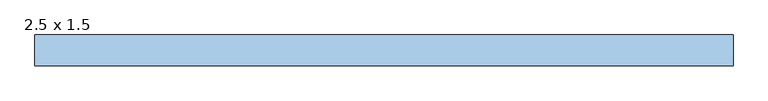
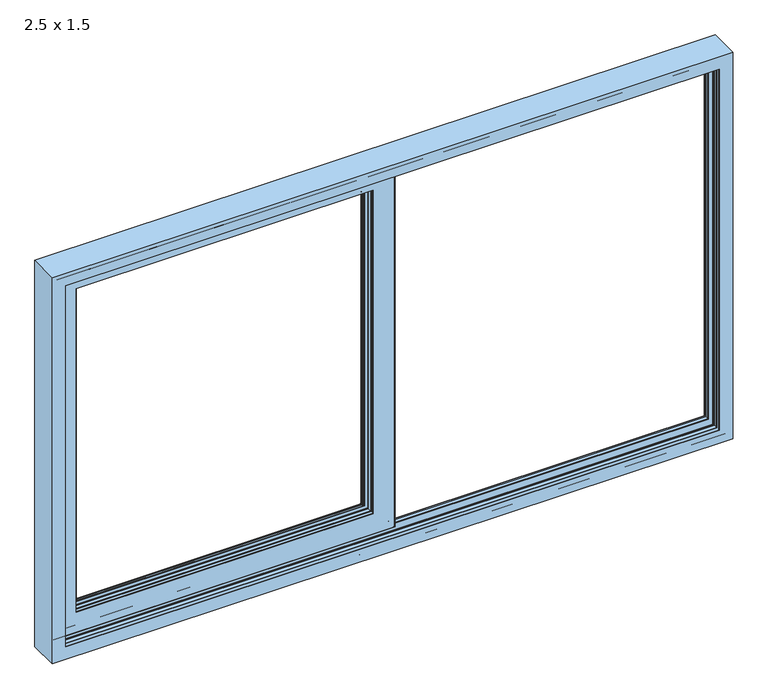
"""IFC4 building model written with IfcOpenShell, lengths in millimetres: window geometry, Windows_Opening-Slide_Strugal_S110P2_One-Leaf-Fixed-Leaf_INT (2) : 2.5 x 1.5."""

from ifc_helpers import new_model, si_unit, frame, origin, place, context, project, spatial, polyline, ellipse_curve, source, transform, mapped, element, save
from ifc_brep_helpers import plane_surface, cylinder_surface, revolved_surface, advanced_brep


def window_2_5_x_1_5_f0680f54(model_context):
    return source(origin(), model_context, "Body", "AdvancedBrep", [
        advanced_brep(
        [(45.5, -11.5, 1459.0), (41.5, -15.5, 1455.0), (41.5, -15.5, 45.0), (45.5, -11.5, 41.0), (-1205.0, -15.5, 1455.0), (-1205.0, -15.5, 45.0), (-36.0, -15.5, 122.5), (-1127.5, -15.5, 122.5), (-1127.5, -15.5, 1377.5), (-36.0, -15.5, 1377.5), (-1209.0, -11.5, 41.0), (45.5, -9.7086962, 1459.0), (45.5, -9.7086962, 41.0), (-1209.0, -9.7086962, 41.0), (44.4913038, -8.7, 1457.9913038), (44.4913038, -8.7, 42.0086962), (-1207.9913038, -8.7, 42.0086962), (-1207.9913038, -8.7, 1457.9913038), (34.9, -8.7, 1448.4), (-1198.4, -8.7, 1448.4), (-1198.4, -8.7, 51.6), (34.9, -8.7, 51.6), (34.9, 22.7, 1448.4), (34.9, 22.7, 51.6), (-1198.4, 22.7, 51.6), (44.5467393, 22.7, 1458.0467393), (-1208.0467393, 22.7, 1458.0467393), (-1208.0467393, 22.7, 41.9532607), (44.5467393, 22.7, 41.9532607), (-1198.4, 22.7, 1448.4), (45.5, 23.6532607, 1459.0), (45.5, 23.6532607, 41.0), (-1209.0, 23.6532607, 41.0), (45.5, 25.5, 1459.0), (45.5, 25.5, 41.0), (-1209.0, 25.5, 41.0), (41.5, 29.5, 1455.0), (41.5, 29.5, 45.0), (-1205.0, 29.5, 45.0), (-1205.0, 29.5, 1455.0), (-42.1435933, 29.5, 1371.3564067), (-1121.3564067, 29.5, 1371.3564067), (-1121.3564067, 29.5, 128.6435933), (-42.1435933, 29.5, 128.6435933), (-56.5170852, 25.3561312, 1356.9829148), (-56.5170852, 25.3561312, 143.0170852), (-1106.9829148, 25.3561312, 143.0170852), (-56.9999998, 24.4819735, 1356.5000002), (-56.9999998, 24.4819735, 143.4999998), (-1106.5000002, 24.4819735, 143.4999998), (-56.9999998, 22.0, 1356.5000002), (-56.9999998, 22.0, 143.4999998), (-1106.5000002, 22.0, 143.4999998), (-56.0, 21.0, 1357.5), (-56.0, 21.0, 142.5), (-1107.5, 21.0, 142.5), (-50.5, 21.0, 1363.0), (-1113.0, 21.0, 1363.0), (-1113.0, 21.0, 137.0), (-50.5, 21.0, 137.0), (-1107.5, 21.0, 1357.5), (-49.5, 22.0, 1364.0), (-49.5, 22.0, 136.0), (-1114.0, 22.0, 136.0), (-49.5, 26.9158408, 1364.0), (-49.5, 26.9158408, 136.0), (-1114.0, 26.9158408, 136.0), (-42.1435933, 28.0, 1371.3564067), (-42.1435933, 28.0, 128.6435933), (-1121.3564067, 28.0, 128.6435933), (-31.0, 28.0, 1382.5), (-1132.5, 28.0, 1382.5), (-1132.5, 28.0, 117.5), (-31.0, 28.0, 117.5), (-1121.3564067, 28.0, 1371.3564067), (-31.0, 18.0, 1382.5), (-31.0, 18.0, 117.5), (-1132.5, 18.0, 117.5), (-1132.5, 18.0, 1382.5), (-35.003386, 18.0, 1378.496614), (-1128.496614, 18.0, 1378.496614), (-1128.496614, 18.0, 121.503386), (-35.003386, 18.0, 121.503386), (-36.0, 17.003386, 1377.5), (-36.0, 17.003386, 122.5), (-1127.5, 17.003386, 122.5), (-36.0, 2.0, 1377.5), (-36.0, 2.0, 122.5), (-1127.5, 2.0, 122.5), (-34.0, 2.0, 1379.5), (-1129.5, 2.0, 1379.5), (-1129.5, 2.0, 120.5), (-34.0, 2.0, 120.5), (-1127.5, 2.0, 1377.5), (-34.0, 4.0, 1379.5), (-34.0, 4.0, 120.5), (-1129.5, 4.0, 120.5), (-31.0, 4.0, 1382.5), (-1132.5, 4.0, 1382.5), (-1132.5, 4.0, 117.5), (-31.0, 4.0, 117.5), (-1129.5, 4.0, 1379.5), (-31.0, -14.0, 1382.5), (-31.0, -14.0, 117.5), (-1132.5, -14.0, 117.5), (-1132.5, -14.0, 1382.5), (-34.0, -14.0, 1379.5), (-1129.5, -14.0, 1379.5), (-1129.5, -14.0, 120.5), (-34.0, -14.0, 120.5), (-34.0, -12.0, 1379.5), (-34.0, -12.0, 120.5), (-1129.5, -12.0, 120.5), (-36.0, -12.5091854, 1377.5), (-36.0, -12.5091854, 122.5), (-1127.5, -12.5091854, 122.5), (-1209.0, -11.5, 1459.0), (-1209.0, -9.7086962, 1459.0), (-1209.0, 23.6532607, 1459.0), (-1209.0, 25.5, 1459.0), (-1106.9829148, 25.3561312, 1356.9829148), (-1106.5000002, 24.4819735, 1356.5000002), (-1106.5000002, 22.0, 1356.5000002), (-1114.0, 22.0, 1364.0), (-1114.0, 26.9158408, 1364.0), (-1127.5, 17.003386, 1377.5), (-1129.5, -12.0, 1379.5), (-1127.5, -12.5091854, 1377.5)],
        [
            (0, 1, ellipse_curve(frame((41.5, -11.5, 1455.0), z_axis=(0.7071067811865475, 0.0, -0.7071067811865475), x_axis=(0.7071067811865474, 0.0, 0.7071067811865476)), 5.6568542, 4.0)),
            (1, 2),
            (2, 3, ellipse_curve(frame((41.5, -11.5, 45.0), z_axis=(0.7071067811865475, 0.0, 0.7071067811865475), x_axis=(-0.7071067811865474, 0.0, 0.7071067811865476)), 5.6568542, 4.0)),
            (3, 0),
            (1, 4),
            (4, 5),
            (5, 2),
            (6, 7),
            (7, 8),
            (8, 9),
            (9, 6),
            (5, 10, ellipse_curve(frame((-1205.0, -11.5, 45.0), z_axis=(0.7071067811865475, 0.0, -0.7071067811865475), x_axis=(0.7071067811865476, 0.0, 0.7071067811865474)), 5.6568542, 4.0)),
            (10, 3),
            (11, 0),
            (3, 12),
            (12, 11),
            (10, 13),
            (13, 12),
            (14, 11, ellipse_curve(frame((44.4913038, -9.7086962, 1457.9913038), z_axis=(0.7071067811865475, 0.0, -0.7071067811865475), x_axis=(0.7071067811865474, 0.0, 0.7071067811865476)), 1.4265118, 1.0086962)),
            (12, 15, ellipse_curve(frame((44.4913038, -9.7086962, 42.0086962), z_axis=(0.7071067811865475, 0.0, 0.7071067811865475), x_axis=(-0.7071067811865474, 0.0, 0.7071067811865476)), 1.4265118, 1.0086962)),
            (15, 14),
            (13, 16, ellipse_curve(frame((-1207.9913038, -9.7086962, 42.0086962), z_axis=(0.7071067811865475, 0.0, -0.7071067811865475), x_axis=(0.7071067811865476, 0.0, 0.7071067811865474)), 1.4265118, 1.0086962)),
            (16, 15),
            (16, 17),
            (17, 14),
            (18, 19),
            (19, 20),
            (20, 21),
            (21, 18),
            (22, 18),
            (21, 23),
            (23, 22),
            (20, 24),
            (24, 23),
            (25, 26),
            (26, 27),
            (27, 28),
            (28, 25),
            (24, 29),
            (29, 22),
            (30, 25, ellipse_curve(frame((44.5467393, 23.6532607, 1458.0467393), z_axis=(0.7071067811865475, 0.0, -0.7071067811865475), x_axis=(0.7071067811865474, 0.0, 0.7071067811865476)), 1.3481142, 0.9532607)),
            (28, 31, ellipse_curve(frame((44.5467393, 23.6532607, 41.9532607), z_axis=(0.7071067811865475, 0.0, 0.7071067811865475), x_axis=(-0.7071067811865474, 0.0, 0.7071067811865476)), 1.3481142, 0.9532607)),
            (31, 30),
            (27, 32, ellipse_curve(frame((-1208.0467393, 23.6532607, 41.9532607), z_axis=(0.7071067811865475, 0.0, -0.7071067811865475), x_axis=(0.7071067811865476, 0.0, 0.7071067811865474)), 1.3481142, 0.9532607)),
            (32, 31),
            (33, 30),
            (31, 34),
            (34, 33),
            (32, 35),
            (35, 34),
            (36, 33, ellipse_curve(frame((41.5, 25.5, 1455.0), z_axis=(0.7071067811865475, 0.0, -0.7071067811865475), x_axis=(0.7071067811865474, 0.0, 0.7071067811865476)), 5.6568542, 4.0)),
            (34, 37, ellipse_curve(frame((41.5, 25.5, 45.0), z_axis=(0.7071067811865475, 0.0, 0.7071067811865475), x_axis=(-0.7071067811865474, 0.0, 0.7071067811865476)), 5.6568542, 4.0)),
            (37, 36),
            (35, 38, ellipse_curve(frame((-1205.0, 25.5, 45.0), z_axis=(0.7071067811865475, 0.0, -0.7071067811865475), x_axis=(0.7071067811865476, 0.0, 0.7071067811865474)), 5.6568542, 4.0)),
            (38, 37),
            (38, 39),
            (39, 36),
            (40, 41),
            (41, 42),
            (42, 43),
            (43, 40),
            (44, 40, ellipse_curve(frame((-42.1435933, 2.5, 1371.3564067), z_axis=(0.7071067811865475, 0.0, -0.7071067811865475), x_axis=(0.7071067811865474, 0.0, 0.7071067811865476)), 38.1837662, 27.0)),
            (43, 45, ellipse_curve(frame((-42.1435933, 2.5, 128.6435933), z_axis=(0.7071067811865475, 0.0, 0.7071067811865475), x_axis=(-0.7071067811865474, 0.0, 0.7071067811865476)), 38.1837662, 27.0)),
            (45, 44),
            (42, 46, ellipse_curve(frame((-1121.3564067, 2.5, 128.6435933), z_axis=(0.7071067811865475, 0.0, -0.7071067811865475), x_axis=(0.7071067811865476, 0.0, 0.7071067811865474)), 38.1837662, 27.0)),
            (46, 45),
            (47, 44, ellipse_curve(frame((-55.9673553, 24.4819735, 1357.5326447), z_axis=(0.7071067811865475, 0.0, -0.7071067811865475), x_axis=(0.7071067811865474, 0.0, 0.7071067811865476)), 1.4603799, 1.0326445)),
            (45, 48, ellipse_curve(frame((-55.9673553, 24.4819735, 142.4673553), z_axis=(0.7071067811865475, 0.0, 0.7071067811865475), x_axis=(-0.7071067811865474, 0.0, 0.7071067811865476)), 1.4603799, 1.0326445)),
            (48, 47),
            (46, 49, ellipse_curve(frame((-1107.5326447, 24.4819735, 142.4673553), z_axis=(0.7071067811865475, 0.0, -0.7071067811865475), x_axis=(0.7071067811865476, 0.0, 0.7071067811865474)), 1.4603799, 1.0326445)),
            (49, 48),
            (50, 47),
            (48, 51),
            (51, 50),
            (49, 52),
            (52, 51),
            (53, 50, ellipse_curve(frame((-56.0, 22.0, 1357.5), z_axis=(0.7071067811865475, 0.0, -0.7071067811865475), x_axis=(0.7071067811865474, 0.0, 0.7071067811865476)), 1.4142136, 1.0)),
            (51, 54, ellipse_curve(frame((-56.0, 22.0, 142.5), z_axis=(0.7071067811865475, 0.0, 0.7071067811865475), x_axis=(-0.7071067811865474, 0.0, 0.7071067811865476)), 1.4142136, 1.0)),
            (54, 53),
            (52, 55, ellipse_curve(frame((-1107.5, 22.0, 142.5), z_axis=(0.7071067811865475, 0.0, -0.7071067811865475), x_axis=(0.7071067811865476, 0.0, 0.7071067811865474)), 1.4142136, 1.0)),
            (55, 54),
            (56, 57),
            (57, 58),
            (58, 59),
            (59, 56),
            (55, 60),
            (60, 53),
            (61, 56, ellipse_curve(frame((-50.5, 22.0, 1363.0), z_axis=(0.7071067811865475, 0.0, -0.7071067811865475), x_axis=(0.7071067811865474, 0.0, 0.7071067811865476)), 1.4142136, 1.0)),
            (59, 62, ellipse_curve(frame((-50.5, 22.0, 137.0), z_axis=(0.7071067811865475, 0.0, 0.7071067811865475), x_axis=(-0.7071067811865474, 0.0, 0.7071067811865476)), 1.4142136, 1.0)),
            (62, 61),
            (58, 63, ellipse_curve(frame((-1113.0, 22.0, 137.0), z_axis=(0.7071067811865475, 0.0, -0.7071067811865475), x_axis=(0.7071067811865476, 0.0, 0.7071067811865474)), 1.4142136, 1.0)),
            (63, 62),
            (64, 61),
            (62, 65),
            (65, 64),
            (63, 66),
            (66, 65),
            (67, 64, ellipse_curve(frame((-42.1435933, 2.5, 1371.3564067), z_axis=(-0.7071067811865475, 0.0, 0.7071067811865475), x_axis=(-0.7071067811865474, 0.0, -0.7071067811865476)), 36.0624458, 25.5)),
            (65, 68, ellipse_curve(frame((-42.1435933, 2.5, 128.6435933), z_axis=(-0.7071067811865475, 0.0, -0.7071067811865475), x_axis=(0.7071067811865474, 0.0, -0.7071067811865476)), 36.0624458, 25.5)),
            (68, 67),
            (66, 69, ellipse_curve(frame((-1121.3564067, 2.5, 128.6435933), z_axis=(-0.7071067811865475, 0.0, 0.7071067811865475), x_axis=(-0.7071067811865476, 0.0, -0.7071067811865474)), 36.0624458, 25.5)),
            (69, 68),
            (70, 71),
            (71, 72),
            (72, 73),
            (73, 70),
            (69, 74),
            (74, 67),
            (75, 70),
            (73, 76),
            (76, 75),
            (72, 77),
            (77, 76),
            (77, 78),
            (78, 75),
            (79, 80),
            (80, 81),
            (81, 82),
            (82, 79),
            (83, 79, ellipse_curve(frame((-35.003386, 17.003386, 1378.496614), z_axis=(0.7071067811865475, 0.0, -0.7071067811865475), x_axis=(0.7071067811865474, 0.0, 0.7071067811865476)), 1.4094251, 0.996614)),
            (82, 84, ellipse_curve(frame((-35.003386, 17.003386, 121.503386), z_axis=(0.7071067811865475, 0.0, 0.7071067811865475), x_axis=(-0.7071067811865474, 0.0, 0.7071067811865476)), 1.4094251, 0.996614)),
            (84, 83),
            (81, 85, ellipse_curve(frame((-1128.496614, 17.003386, 121.503386), z_axis=(0.7071067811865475, 0.0, -0.7071067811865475), x_axis=(0.7071067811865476, 0.0, 0.7071067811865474)), 1.4094251, 0.996614)),
            (85, 84),
            (86, 83),
            (84, 87),
            (87, 86),
            (85, 88),
            (88, 87),
            (89, 90),
            (90, 91),
            (91, 92),
            (92, 89),
            (88, 93),
            (93, 86),
            (94, 89),
            (92, 95),
            (95, 94),
            (91, 96),
            (96, 95),
            (97, 98),
            (98, 99),
            (99, 100),
            (100, 97),
            (96, 101),
            (101, 94),
            (102, 97),
            (100, 103),
            (103, 102),
            (99, 104),
            (104, 103),
            (104, 105),
            (105, 102),
            (106, 107),
            (107, 108),
            (108, 109),
            (109, 106),
            (110, 106),
            (109, 111),
            (111, 110),
            (108, 112),
            (112, 111),
            (113, 110),
            (111, 114),
            (114, 113),
            (112, 115),
            (115, 114),
            (9, 113),
            (114, 6),
            (115, 7),
            (4, 116, ellipse_curve(frame((-1205.0, -11.5, 1455.0), z_axis=(-0.7071067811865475, 0.0, -0.7071067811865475), x_axis=(0.7071067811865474, 0.0, -0.7071067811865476)), 5.6568542, 4.0)),
            (116, 10),
            (116, 117),
            (117, 13),
            (117, 17, ellipse_curve(frame((-1207.9913038, -9.7086962, 1457.9913038), z_axis=(-0.7071067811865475, 0.0, -0.7071067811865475), x_axis=(0.7071067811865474, 0.0, -0.7071067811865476)), 1.4265118, 1.0086962)),
            (19, 29),
            (26, 118, ellipse_curve(frame((-1208.0467393, 23.6532607, 1458.0467393), z_axis=(-0.7071067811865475, 0.0, -0.7071067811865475), x_axis=(0.7071067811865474, 0.0, -0.7071067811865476)), 1.3481142, 0.9532607)),
            (118, 32),
            (118, 119),
            (119, 35),
            (119, 39, ellipse_curve(frame((-1205.0, 25.5, 1455.0), z_axis=(-0.7071067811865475, 0.0, -0.7071067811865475), x_axis=(0.7071067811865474, 0.0, -0.7071067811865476)), 5.6568542, 4.0)),
            (41, 120, ellipse_curve(frame((-1121.3564067, 2.5, 1371.3564067), z_axis=(-0.7071067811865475, 0.0, -0.7071067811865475), x_axis=(0.7071067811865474, 0.0, -0.7071067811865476)), 38.1837662, 27.0)),
            (120, 46),
            (120, 121, ellipse_curve(frame((-1107.5326447, 24.4819735, 1357.5326447), z_axis=(-0.7071067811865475, 0.0, -0.7071067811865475), x_axis=(0.7071067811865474, 0.0, -0.7071067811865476)), 1.4603799, 1.0326445)),
            (121, 49),
            (121, 122),
            (122, 52),
            (122, 60, ellipse_curve(frame((-1107.5, 22.0, 1357.5), z_axis=(-0.7071067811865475, 0.0, -0.7071067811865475), x_axis=(0.7071067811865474, 0.0, -0.7071067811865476)), 1.4142136, 1.0)),
            (57, 123, ellipse_curve(frame((-1113.0, 22.0, 1363.0), z_axis=(-0.7071067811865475, 0.0, -0.7071067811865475), x_axis=(0.7071067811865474, 0.0, -0.7071067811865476)), 1.4142136, 1.0)),
            (123, 63),
            (123, 124),
            (124, 66),
            (124, 74, ellipse_curve(frame((-1121.3564067, 2.5, 1371.3564067), z_axis=(0.7071067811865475, 0.0, 0.7071067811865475), x_axis=(-0.7071067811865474, 0.0, 0.7071067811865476)), 36.0624458, 25.5)),
            (71, 78),
            (80, 125, ellipse_curve(frame((-1128.496614, 17.003386, 1378.496614), z_axis=(-0.7071067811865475, 0.0, -0.7071067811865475), x_axis=(0.7071067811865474, 0.0, -0.7071067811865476)), 1.4094251, 0.996614)),
            (125, 85),
            (125, 93),
            (90, 101),
            (98, 105),
            (107, 126),
            (126, 112),
            (126, 127),
            (127, 115),
            (127, 8),
            (0, 116),
            (11, 117),
            (30, 118),
            (33, 119),
            (44, 120),
            (47, 121),
            (50, 122),
            (61, 123),
            (64, 124),
            (83, 125),
            (110, 126),
            (113, 127),
        ],
        [
            cylinder_surface(frame((41.5, -11.5, 1459.0), z_axis=(0.0, 0.0, 1.0), x_axis=(-1.0, 0.0, 0.0)), 4.0),
            plane_surface(frame((-1127.5, -15.5, 1377.5), z_axis=(0.0, -1.0, 0.0), x_axis=(1.0, 0.0, 0.0))),
            cylinder_surface(frame((45.5, -11.5, 45.0), z_axis=(1.0, 0.0, 0.0), x_axis=(0.0, 0.0, 1.0)), 4.0),
            plane_surface(frame((45.5, -11.5, 1459.0), z_axis=(1.0, 0.0, 0.0), x_axis=(0.0, 0.0, -1.0))),
            plane_surface(frame((45.5, -11.5, 41.0), z_axis=(0.0, 0.0, -1.0), x_axis=(-1.0, 0.0, 0.0))),
            cylinder_surface(frame((44.4913038, -9.7086962, 1459.0), z_axis=(0.0, 0.0, 1.0), x_axis=(-1.0, 0.0, 0.0)), 1.0086962),
            cylinder_surface(frame((45.5, -9.7086962, 42.0086962), z_axis=(1.0, 0.0, 0.0), x_axis=(0.0, 0.0, 1.0)), 1.0086962),
            plane_surface(frame((-1207.9913038, -8.7, 1457.9913038), z_axis=(0.0, 1.0, 0.0), x_axis=(1.0, 0.0, 0.0))),
            plane_surface(frame((34.9, -8.7, 1448.4), z_axis=(1.0, 0.0, 0.0), x_axis=(0.0, 0.0, -1.0))),
            plane_surface(frame((34.9, -8.7, 51.6), z_axis=(0.0, 0.0, -1.0), x_axis=(-1.0, 0.0, 0.0))),
            plane_surface(frame((-1198.4, 22.7, 1448.4), z_axis=(0.0, -1.0, 0.0), x_axis=(1.0, 0.0, 0.0))),
            cylinder_surface(frame((44.5467393, 23.6532607, 1459.0), z_axis=(0.0, 0.0, 1.0), x_axis=(-1.0, 0.0, 0.0)), 0.9532607),
            cylinder_surface(frame((45.5, 23.6532607, 41.9532607), z_axis=(1.0, 0.0, 0.0), x_axis=(0.0, 0.0, 1.0)), 0.9532607),
            plane_surface(frame((45.5, 23.6532607, 1459.0), z_axis=(1.0, 0.0, 0.0), x_axis=(0.0, 0.0, -1.0))),
            plane_surface(frame((45.5, 23.6532607, 41.0), z_axis=(0.0, 0.0, -1.0), x_axis=(-1.0, 0.0, 0.0))),
            cylinder_surface(frame((41.5, 25.5, 1459.0), z_axis=(0.0, 0.0, 1.0), x_axis=(-1.0, 0.0, 0.0)), 4.0),
            cylinder_surface(frame((45.5, 25.5, 45.0), z_axis=(1.0, 0.0, 0.0), x_axis=(0.0, 0.0, 1.0)), 4.0),
            plane_surface(frame((-1205.0, 29.5, 1455.0), z_axis=(0.0, 1.0, 0.0), x_axis=(1.0, 0.0, 0.0))),
            cylinder_surface(frame((-42.1435933, 2.5, 1459.0), z_axis=(0.0, 0.0, 1.0), x_axis=(-1.0, 0.0, 0.0)), 27.0),
            cylinder_surface(frame((45.5, 2.5, 128.6435933), z_axis=(1.0, 0.0, 0.0), x_axis=(0.0, 0.0, 1.0)), 27.0),
            cylinder_surface(frame((-55.9673553, 24.4819735, 1459.0), z_axis=(0.0, 0.0, 1.0), x_axis=(-1.0, 0.0, 0.0)), 1.0326445),
            cylinder_surface(frame((45.5, 24.4819735, 142.4673553), z_axis=(1.0, 0.0, 0.0), x_axis=(0.0, 0.0, 1.0)), 1.0326445),
            plane_surface(frame((-56.9999998, 24.4819735, 1356.5000002), z_axis=(-1.0, 0.0, 0.0), x_axis=(0.0, 0.0, -1.0))),
            plane_surface(frame((-56.9999998, 24.4819735, 143.4999998), z_axis=(0.0, 0.0, 1.0), x_axis=(-1.0, 0.0, 0.0))),
            cylinder_surface(frame((-56.0, 22.0, 1459.0), z_axis=(0.0, 0.0, 1.0), x_axis=(-1.0, 0.0, 0.0)), 1.0),
            cylinder_surface(frame((45.5, 22.0, 142.5), z_axis=(1.0, 0.0, 0.0), x_axis=(0.0, 0.0, 1.0)), 1.0),
            plane_surface(frame((-1107.5, 21.0, 1357.5), z_axis=(0.0, -1.0, 0.0), x_axis=(1.0, 0.0, 0.0))),
            cylinder_surface(frame((-50.5, 22.0, 1459.0), z_axis=(0.0, 0.0, 1.0), x_axis=(-1.0, 0.0, 0.0)), 1.0),
            cylinder_surface(frame((45.5, 22.0, 137.0), z_axis=(1.0, 0.0, 0.0), x_axis=(0.0, 0.0, 1.0)), 1.0),
            plane_surface(frame((-49.5, 22.0, 1364.0), z_axis=(1.0, 0.0, 0.0), x_axis=(0.0, 0.0, -1.0))),
            plane_surface(frame((-49.5, 22.0, 136.0), z_axis=(0.0, 0.0, -1.0), x_axis=(-1.0, 0.0, 0.0))),
            revolved_surface(polyline([(-67.64359329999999, 2.5, 103.14359332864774), (-67.64359329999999, 2.5, 1396.8564066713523)]), (-42.1435933, 2.5, 1459.0), (0.0, 0.0, -1.0)),
            revolved_surface(polyline([(-1146.8564066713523, 2.5, 154.1435933), (-16.64359332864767, 2.5, 154.1435933)]), (45.5, 2.5, 128.6435933), (-1.0, 0.0, 0.0)),
            plane_surface(frame((-1121.3564067, 28.0, 1371.3564067), z_axis=(0.0, -1.0, 0.0), x_axis=(1.0, 0.0, 0.0))),
            plane_surface(frame((-31.0, 28.0, 1382.5), z_axis=(-1.0, 0.0, 0.0), x_axis=(0.0, 0.0, -1.0))),
            plane_surface(frame((-31.0, 28.0, 117.5), z_axis=(0.0, 0.0, 1.0), x_axis=(-1.0, 0.0, 0.0))),
            plane_surface(frame((-1132.5, 18.0, 1382.5), z_axis=(0.0, 1.0, 0.0), x_axis=(1.0, 0.0, 0.0))),
            cylinder_surface(frame((-35.003386, 17.003386, 1459.0), z_axis=(0.0, 0.0, 1.0), x_axis=(-1.0, 0.0, 0.0)), 0.996614),
            cylinder_surface(frame((45.5, 17.003386, 121.503386), z_axis=(1.0, 0.0, 0.0), x_axis=(0.0, 0.0, 1.0)), 0.996614),
            plane_surface(frame((-36.0, 17.003386, 1377.5), z_axis=(-1.0, 0.0, 0.0), x_axis=(0.0, 0.0, -1.0))),
            plane_surface(frame((-36.0, 17.003386, 122.5), z_axis=(0.0, 0.0, 1.0), x_axis=(-1.0, 0.0, 0.0))),
            plane_surface(frame((-1127.5, 2.0, 1377.5), z_axis=(0.0, -1.0, 0.0), x_axis=(1.0, 0.0, 0.0))),
            plane_surface(frame((-34.0, 2.0, 1379.5), z_axis=(1.0, 0.0, 0.0), x_axis=(0.0, 0.0, -1.0))),
            plane_surface(frame((-34.0, 2.0, 120.5), z_axis=(0.0, 0.0, -1.0), x_axis=(-1.0, 0.0, 0.0))),
            plane_surface(frame((-1129.5, 4.0, 1379.5), z_axis=(0.0, -1.0, 0.0), x_axis=(1.0, 0.0, 0.0))),
            plane_surface(frame((-31.0, 4.0, 1382.5), z_axis=(-1.0, 0.0, 0.0), x_axis=(0.0, 0.0, -1.0))),
            plane_surface(frame((-31.0, 4.0, 117.5), z_axis=(0.0, 0.0, 1.0), x_axis=(-1.0, 0.0, 0.0))),
            plane_surface(frame((-1132.5, -14.0, 1382.5), z_axis=(0.0, 1.0, 0.0), x_axis=(1.0, 0.0, 0.0))),
            plane_surface(frame((-34.0, -14.0, 1379.5), z_axis=(1.0, 0.0, 0.0), x_axis=(0.0, 0.0, -1.0))),
            plane_surface(frame((-34.0, -14.0, 120.5), z_axis=(0.0, 0.0, -1.0), x_axis=(-1.0, 0.0, 0.0))),
            plane_surface(frame((-34.0, -12.0, 1379.5), z_axis=(-0.24672227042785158, 0.9690862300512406, 0.0), x_axis=(0.0, 0.0, -1.0))),
            plane_surface(frame((-34.0, -12.0, 120.5), z_axis=(0.0, 0.9690862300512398, 0.24672227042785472), x_axis=(-1.0, 0.0, 0.0))),
            plane_surface(frame((-36.0, -12.5091854, 1377.5), z_axis=(-1.0, 0.0, 0.0), x_axis=(0.0, 0.0, -1.0))),
            plane_surface(frame((-36.0, -12.5091854, 122.5), z_axis=(0.0, 0.0, 1.0), x_axis=(-1.0, 0.0, 0.0))),
            cylinder_surface(frame((-1205.0, -11.5, 41.0), z_axis=(0.0, 0.0, -1.0), x_axis=(1.0, 0.0, 0.0)), 4.0),
            plane_surface(frame((-1209.0, -11.5, 41.0), z_axis=(-1.0, 0.0, 0.0), x_axis=(0.0, 0.0, 1.0))),
            cylinder_surface(frame((-1207.9913038, -9.7086962, 41.0), z_axis=(0.0, 0.0, -1.0), x_axis=(1.0, 0.0, 0.0)), 1.0086962),
            plane_surface(frame((-1198.4, -8.7, 51.6), z_axis=(-1.0, 0.0, 0.0), x_axis=(0.0, 0.0, 1.0))),
            cylinder_surface(frame((-1208.0467393, 23.6532607, 41.0), z_axis=(0.0, 0.0, -1.0), x_axis=(1.0, 0.0, 0.0)), 0.9532607),
            plane_surface(frame((-1209.0, 23.6532607, 41.0), z_axis=(-1.0, 0.0, 0.0), x_axis=(0.0, 0.0, 1.0))),
            cylinder_surface(frame((-1205.0, 25.5, 41.0), z_axis=(0.0, 0.0, -1.0), x_axis=(1.0, 0.0, 0.0)), 4.0),
            cylinder_surface(frame((-1121.3564067, 2.5, 41.0), z_axis=(0.0, 0.0, -1.0), x_axis=(1.0, 0.0, 0.0)), 27.0),
            cylinder_surface(frame((-1107.5326447, 24.4819735, 41.0), z_axis=(0.0, 0.0, -1.0), x_axis=(1.0, 0.0, 0.0)), 1.0326445),
            plane_surface(frame((-1106.5000002, 24.4819735, 143.4999998), z_axis=(1.0, 0.0, 0.0), x_axis=(0.0, 0.0, 1.0))),
            cylinder_surface(frame((-1107.5, 22.0, 41.0), z_axis=(0.0, 0.0, -1.0), x_axis=(1.0, 0.0, 0.0)), 1.0),
            cylinder_surface(frame((-1113.0, 22.0, 41.0), z_axis=(0.0, 0.0, -1.0), x_axis=(1.0, 0.0, 0.0)), 1.0),
            plane_surface(frame((-1114.0, 22.0, 136.0), z_axis=(-1.0, 0.0, 0.0), x_axis=(0.0, 0.0, 1.0))),
            revolved_surface(polyline([(-1095.8564067, 2.5, 1396.8564066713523), (-1095.8564067, 2.5, 103.14359332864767)]), (-1121.3564067, 2.5, 41.0), (0.0, 0.0, 1.0)),
            plane_surface(frame((-1132.5, 28.0, 117.5), z_axis=(1.0, 0.0, 0.0), x_axis=(0.0, 0.0, 1.0))),
            cylinder_surface(frame((-1128.496614, 17.003386, 41.0), z_axis=(0.0, 0.0, -1.0), x_axis=(1.0, 0.0, 0.0)), 0.996614),
            plane_surface(frame((-1127.5, 17.003386, 122.5), z_axis=(1.0, 0.0, 0.0), x_axis=(0.0, 0.0, 1.0))),
            plane_surface(frame((-1129.5, 2.0, 120.5), z_axis=(-1.0, 0.0, 0.0), x_axis=(0.0, 0.0, 1.0))),
            plane_surface(frame((-1132.5, 4.0, 117.5), z_axis=(1.0, 0.0, 0.0), x_axis=(0.0, 0.0, 1.0))),
            plane_surface(frame((-1129.5, -14.0, 120.5), z_axis=(-1.0, 0.0, 0.0), x_axis=(0.0, 0.0, 1.0))),
            plane_surface(frame((-1129.5, -12.0, 120.5), z_axis=(0.24672227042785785, 0.9690862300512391, 0.0), x_axis=(0.0, 0.0, 1.0))),
            plane_surface(frame((-1127.5, -12.5091854, 122.5), z_axis=(1.0, 0.0, 0.0), x_axis=(0.0, 0.0, 1.0))),
            cylinder_surface(frame((-1209.0, -11.5, 1455.0), z_axis=(-1.0, 0.0, 0.0), x_axis=(0.0, 0.0, -1.0)), 4.0),
            plane_surface(frame((-1209.0, -11.5, 1459.0), z_axis=(0.0, 0.0, 1.0), x_axis=(1.0, 0.0, 0.0))),
            cylinder_surface(frame((-1209.0, -9.7086962, 1457.9913038), z_axis=(-1.0, 0.0, 0.0), x_axis=(0.0, 0.0, -1.0)), 1.0086962),
            plane_surface(frame((-1198.4, -8.7, 1448.4), z_axis=(0.0, 0.0, 1.0), x_axis=(1.0, 0.0, 0.0))),
            cylinder_surface(frame((-1209.0, 23.6532607, 1458.0467393), z_axis=(-1.0, 0.0, 0.0), x_axis=(0.0, 0.0, -1.0)), 0.9532607),
            plane_surface(frame((-1209.0, 23.6532607, 1459.0), z_axis=(0.0, 0.0, 1.0), x_axis=(1.0, 0.0, 0.0))),
            cylinder_surface(frame((-1209.0, 25.5, 1455.0), z_axis=(-1.0, 0.0, 0.0), x_axis=(0.0, 0.0, -1.0)), 4.0),
            cylinder_surface(frame((-1209.0, 2.5, 1371.3564067), z_axis=(-1.0, 0.0, 0.0), x_axis=(0.0, 0.0, -1.0)), 27.0),
            cylinder_surface(frame((-1209.0, 24.4819735, 1357.5326447), z_axis=(-1.0, 0.0, 0.0), x_axis=(0.0, 0.0, -1.0)), 1.0326445),
            plane_surface(frame((-1106.5000002, 24.4819735, 1356.5000002), z_axis=(0.0, 0.0, -1.0), x_axis=(1.0, 0.0, 0.0))),
            cylinder_surface(frame((-1209.0, 22.0, 1357.5), z_axis=(-1.0, 0.0, 0.0), x_axis=(0.0, 0.0, -1.0)), 1.0),
            cylinder_surface(frame((-1209.0, 22.0, 1363.0), z_axis=(-1.0, 0.0, 0.0), x_axis=(0.0, 0.0, -1.0)), 1.0),
            plane_surface(frame((-1114.0, 22.0, 1364.0), z_axis=(0.0, 0.0, 1.0), x_axis=(1.0, 0.0, 0.0))),
            revolved_surface(polyline([(-16.64359332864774, 2.5, 1345.8564067), (-1146.8564066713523, 2.5, 1345.8564067)]), (-1209.0, 2.5, 1371.3564067), (1.0, 0.0, 0.0)),
            plane_surface(frame((-1132.5, 28.0, 1382.5), z_axis=(0.0, 0.0, -1.0), x_axis=(1.0, 0.0, 0.0))),
            cylinder_surface(frame((-1209.0, 17.003386, 1378.496614), z_axis=(-1.0, 0.0, 0.0), x_axis=(0.0, 0.0, -1.0)), 0.996614),
            plane_surface(frame((-1127.5, 17.003386, 1377.5), z_axis=(0.0, 0.0, -1.0), x_axis=(1.0, 0.0, 0.0))),
            plane_surface(frame((-1129.5, 2.0, 1379.5), z_axis=(0.0, 0.0, 1.0), x_axis=(1.0, 0.0, 0.0))),
            plane_surface(frame((-1132.5, 4.0, 1382.5), z_axis=(0.0, 0.0, -1.0), x_axis=(1.0, 0.0, 0.0))),
            plane_surface(frame((-1129.5, -14.0, 1379.5), z_axis=(0.0, 0.0, 1.0), x_axis=(1.0, 0.0, 0.0))),
            plane_surface(frame((-1129.5, -12.0, 1379.5), z_axis=(0.0, 0.9690862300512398, -0.24672227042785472), x_axis=(1.0, 0.0, 0.0))),
            plane_surface(frame((-1127.5, -12.5091854, 1377.5), z_axis=(0.0, 0.0, -1.0), x_axis=(1.0, 0.0, 0.0))),
        ],
        [
            (0, [[1, 2, 3, 4]]),
            (1, [[5, 6, 7, -2], [8, 9, 10, 11]]),
            (2, [[-3, -7, 12, 13]]),
            (3, [[14, -4, 15, 16]]),
            (4, [[-15, -13, 17, 18]]),
            (5, [[19, -16, 20, 21]]),
            (6, [[-20, -18, 22, 23]]),
            (7, [[-23, 24, 25, -21], [26, 27, 28, 29]]),
            (8, [[30, -29, 31, 32]]),
            (9, [[-31, -28, 33, 34]]),
            (10, [[35, 36, 37, 38], [-34, 39, 40, -32]]),
            (11, [[41, -38, 42, 43]]),
            (12, [[-42, -37, 44, 45]]),
            (13, [[46, -43, 47, 48]]),
            (14, [[-47, -45, 49, 50]]),
            (15, [[51, -48, 52, 53]]),
            (16, [[-52, -50, 54, 55]]),
            (17, [[-55, 56, 57, -53], [58, 59, 60, 61]]),
            (18, [[62, -61, 63, 64]]),
            (19, [[-63, -60, 65, 66]]),
            (20, [[67, -64, 68, 69]]),
            (21, [[-68, -66, 70, 71]]),
            (22, [[72, -69, 73, 74]]),
            (23, [[-73, -71, 75, 76]]),
            (24, [[77, -74, 78, 79]]),
            (25, [[-78, -76, 80, 81]]),
            (26, [[82, 83, 84, 85], [-81, 86, 87, -79]]),
            (27, [[88, -85, 89, 90]]),
            (28, [[-89, -84, 91, 92]]),
            (29, [[93, -90, 94, 95]]),
            (30, [[-94, -92, 96, 97]]),
            (31, [[98, -95, 99, 100]]),
            (32, [[-99, -97, 101, 102]]),
            (33, [[103, 104, 105, 106], [-102, 107, 108, -100]]),
            (34, [[109, -106, 110, 111]]),
            (35, [[-110, -105, 112, 113]]),
            (36, [[-113, 114, 115, -111], [116, 117, 118, 119]]),
            (37, [[120, -119, 121, 122]]),
            (38, [[-121, -118, 123, 124]]),
            (39, [[125, -122, 126, 127]]),
            (40, [[-126, -124, 128, 129]]),
            (41, [[130, 131, 132, 133], [-129, 134, 135, -127]]),
            (42, [[136, -133, 137, 138]]),
            (43, [[-137, -132, 139, 140]]),
            (44, [[141, 142, 143, 144], [-140, 145, 146, -138]]),
            (45, [[147, -144, 148, 149]]),
            (46, [[-148, -143, 150, 151]]),
            (47, [[-151, 152, 153, -149], [154, 155, 156, 157]]),
            (48, [[158, -157, 159, 160]]),
            (49, [[-159, -156, 161, 162]]),
            (50, [[163, -160, 164, 165]]),
            (51, [[-164, -162, 166, 167]]),
            (52, [[168, -165, 169, -11]]),
            (53, [[-169, -167, 170, -8]]),
            (54, [[-12, -6, 171, 172]]),
            (55, [[-17, -172, 173, 174]]),
            (56, [[-22, -174, 175, -24]]),
            (57, [[-33, -27, 176, -39]]),
            (58, [[-44, -36, 177, 178]]),
            (59, [[-49, -178, 179, 180]]),
            (60, [[-54, -180, 181, -56]]),
            (61, [[-65, -59, 182, 183]]),
            (62, [[-70, -183, 184, 185]]),
            (63, [[-75, -185, 186, 187]]),
            (64, [[-80, -187, 188, -86]]),
            (65, [[-91, -83, 189, 190]]),
            (66, [[-96, -190, 191, 192]]),
            (67, [[-101, -192, 193, -107]]),
            (68, [[-112, -104, 194, -114]]),
            (69, [[-123, -117, 195, 196]]),
            (70, [[-128, -196, 197, -134]]),
            (71, [[-139, -131, 198, -145]]),
            (72, [[-150, -142, 199, -152]]),
            (73, [[-161, -155, 200, 201]]),
            (74, [[-166, -201, 202, 203]]),
            (75, [[-170, -203, 204, -9]]),
            (76, [[-171, -5, -1, 205]]),
            (77, [[-173, -205, -14, 206]]),
            (78, [[-175, -206, -19, -25]]),
            (79, [[-176, -26, -30, -40]]),
            (80, [[-177, -35, -41, 207]]),
            (81, [[-179, -207, -46, 208]]),
            (82, [[-181, -208, -51, -57]]),
            (83, [[-182, -58, -62, 209]]),
            (84, [[-184, -209, -67, 210]]),
            (85, [[-186, -210, -72, 211]]),
            (86, [[-188, -211, -77, -87]]),
            (87, [[-189, -82, -88, 212]]),
            (88, [[-191, -212, -93, 213]]),
            (89, [[-193, -213, -98, -108]]),
            (90, [[-194, -103, -109, -115]]),
            (91, [[-195, -116, -120, 214]]),
            (92, [[-197, -214, -125, -135]]),
            (93, [[-198, -130, -136, -146]]),
            (94, [[-199, -141, -147, -153]]),
            (95, [[-200, -154, -158, 215]]),
            (96, [[-202, -215, -163, 216]]),
            (97, [[-204, -216, -168, -10]]),
        ],
    ),
        advanced_brep(
        [(1250.0, 35.0, 1500.0), (1250.0, -75.0, 1500.0), (1250.0, -75.0, 0.0), (1250.0, 35.0, 0.0), (-1250.0, -75.0, 1500.0), (-1250.0, -75.0, 0.0), (1200.7, -75.0, 49.3), (-1200.7, -75.0, 49.3), (-1200.7, -75.0, 1450.7), (1200.7, -75.0, 1450.7), (-1250.0, 35.0, 0.0), (-1250.0, 35.0, 1500.0), (1234.9029473, 35.0, 1484.9029473), (-1234.9029473, 35.0, 1484.9029473), (-1234.9029473, 35.0, 15.0970527), (1234.9029473, 35.0, 15.0970527), (1226.9808027, 28.1133848, 1476.9808027), (1226.9808027, 28.1133848, 23.0191973), (-1226.9808027, 28.1133848, 23.0191973), (1225.7, 19.0, 1475.7), (1225.7, 19.0, 24.3), (-1225.7, 19.0, 24.3), (-1225.7, 19.0, 1475.7), (1200.5541548, 19.0, 1450.5541548), (-1200.5541548, 19.0, 1450.5541548), (-1200.5541548, 19.0, 49.4458452), (1200.5541548, 19.0, 49.4458452), (1200.5541548, 16.5, 1450.5541548), (1200.5541548, 16.5, 49.4458452), (-1200.5541548, 16.5, 49.4458452), (1204.5, 16.5, 1454.5), (-1204.5, 16.5, 1454.5), (-1204.5, 16.5, 45.5), (1204.5, 16.5, 45.5), (-1200.5541548, 16.5, 1450.5541548), (1204.5, -2.5, 1454.5), (1204.5, -2.5, 45.5), (-1204.5, -2.5, 45.5), (-1204.5, -2.5, 1454.5), (1200.5615636, -2.5, 1450.5615636), (-1200.5615636, -2.5, 1450.5615636), (-1200.5615636, -2.5, 49.4384364), (1200.5615636, -2.5, 49.4384364), (1200.5615636, -5.0, 1450.5615636), (1200.5615636, -5.0, 49.4384364), (-1200.5615636, -5.0, 49.4384364), (1225.7, -5.0, 1475.7), (-1225.7, -5.0, 1475.7), (-1225.7, -5.0, 24.3), (1225.7, -5.0, 24.3), (-1200.5615636, -5.0, 1450.5615636), (1225.7, -36.0, 1475.7), (1225.7, -36.0, 24.3), (-1225.7, -36.0, 24.3), (-1225.7, -36.0, 1475.7), (1200.5597365, -36.0, 1450.5597365), (-1200.5597365, -36.0, 1450.5597365), (-1200.5597365, -36.0, 49.4402635), (1200.5597365, -36.0, 49.4402635), (1200.5597365, -38.4771639, 1450.5597365), (1200.5597365, -38.4771639, 49.4402635), (-1200.5597365, -38.4771639, 49.4402635), (1204.5, -38.4771639, 1454.5), (-1204.5, -38.4771639, 1454.5), (-1204.5, -38.4771639, 45.5), (1204.5, -38.4771639, 45.5), (-1200.5597365, -38.4771639, 1450.5597365), (1204.5, -57.5228361, 1454.5), (1204.5, -57.5228361, 45.5), (-1204.5, -57.5228361, 45.5), (-1204.5, -57.5228361, 1454.5), (1200.5576299, -57.5228361, 1450.5576299), (-1200.5576299, -57.5228361, 1450.5576299), (-1200.5576299, -57.5228361, 49.4423701), (1200.5576299, -57.5228361, 49.4423701), (1200.5576299, -60.0, 1450.5576299), (1200.5576299, -60.0, 49.4423701), (-1200.5576299, -60.0, 49.4423701), (1218.95, -60.0, 1468.95), (-1218.95, -60.0, 1468.95), (-1218.95, -60.0, 31.05), (1218.95, -60.0, 31.05), (-1200.5576299, -60.0, 1450.5576299), (1218.95, -73.5, 1468.95), (1218.95, -73.5, 31.05), (-1218.95, -73.5, 31.05), (-1218.95, -73.5, 1468.95), (1200.7, -73.5, 1450.7), (-1200.7, -73.5, 1450.7), (-1200.7, -73.5, 49.3), (1200.7, -73.5, 49.3), (-1226.9808027, 28.1133848, 1476.9808027)],
        [
            (0, 1),
            (1, 2),
            (2, 3),
            (3, 0),
            (1, 4),
            (4, 5),
            (5, 2),
            (6, 7),
            (7, 8),
            (8, 9),
            (9, 6),
            (5, 10),
            (10, 3),
            (10, 11),
            (11, 0),
            (12, 13),
            (13, 14),
            (14, 15),
            (15, 12),
            (16, 12, ellipse_curve(frame((1234.9029473, 27.0, 1484.9029473), z_axis=(0.7071067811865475, 0.0, -0.7071067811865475), x_axis=(0.7071067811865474, 0.0, 0.7071067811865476)), 11.3137085, 8.0)),
            (15, 17, ellipse_curve(frame((1234.9029473, 27.0, 15.0970527), z_axis=(0.7071067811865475, 0.0, 0.7071067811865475), x_axis=(-0.7071067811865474, 0.0, 0.7071067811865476)), 11.3137085, 8.0)),
            (17, 16),
            (14, 18, ellipse_curve(frame((-1234.9029473, 27.0, 15.0970527), z_axis=(0.7071067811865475, 0.0, -0.7071067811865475), x_axis=(0.7071067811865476, 0.0, 0.7071067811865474)), 11.3137085, 8.0)),
            (18, 17),
            (19, 16),
            (17, 20),
            (20, 19),
            (18, 21),
            (21, 20),
            (21, 22),
            (22, 19),
            (23, 24),
            (24, 25),
            (25, 26),
            (26, 23),
            (27, 23),
            (26, 28),
            (28, 27),
            (25, 29),
            (29, 28),
            (30, 31),
            (31, 32),
            (32, 33),
            (33, 30),
            (29, 34),
            (34, 27),
            (35, 30),
            (33, 36),
            (36, 35),
            (32, 37),
            (37, 36),
            (37, 38),
            (38, 35),
            (39, 40),
            (40, 41),
            (41, 42),
            (42, 39),
            (43, 39),
            (42, 44),
            (44, 43),
            (41, 45),
            (45, 44),
            (46, 47),
            (47, 48),
            (48, 49),
            (49, 46),
            (45, 50),
            (50, 43),
            (51, 46),
            (49, 52),
            (52, 51),
            (48, 53),
            (53, 52),
            (53, 54),
            (54, 51),
            (55, 56),
            (56, 57),
            (57, 58),
            (58, 55),
            (59, 55),
            (58, 60),
            (60, 59),
            (57, 61),
            (61, 60),
            (62, 63),
            (63, 64),
            (64, 65),
            (65, 62),
            (61, 66),
            (66, 59),
            (67, 62),
            (65, 68),
            (68, 67),
            (64, 69),
            (69, 68),
            (69, 70),
            (70, 67),
            (71, 72),
            (72, 73),
            (73, 74),
            (74, 71),
            (75, 71),
            (74, 76),
            (76, 75),
            (73, 77),
            (77, 76),
            (78, 79),
            (79, 80),
            (80, 81),
            (81, 78),
            (77, 82),
            (82, 75),
            (83, 78, ellipse_curve(frame((1218.95, -66.75, 1468.95), z_axis=(-0.7071067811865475, 0.0, 0.7071067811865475), x_axis=(-0.7071067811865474, 0.0, -0.7071067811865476)), 9.5459415, 6.75)),
            (81, 84, ellipse_curve(frame((1218.95, -66.75, 31.05), z_axis=(-0.7071067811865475, 0.0, -0.7071067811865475), x_axis=(0.7071067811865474, 0.0, -0.7071067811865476)), 9.5459415, 6.75)),
            (84, 83),
            (80, 85, ellipse_curve(frame((-1218.95, -66.75, 31.05), z_axis=(-0.7071067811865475, 0.0, 0.7071067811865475), x_axis=(-0.7071067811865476, 0.0, -0.7071067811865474)), 9.5459415, 6.75)),
            (85, 84),
            (85, 86),
            (86, 83),
            (87, 88),
            (88, 89),
            (89, 90),
            (90, 87),
            (9, 87),
            (90, 6),
            (89, 7),
            (4, 11),
            (13, 91, ellipse_curve(frame((-1234.9029473, 27.0, 1484.9029473), z_axis=(-0.7071067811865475, 0.0, -0.7071067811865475), x_axis=(0.7071067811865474, 0.0, -0.7071067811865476)), 11.3137085, 8.0)),
            (91, 18),
            (91, 22),
            (24, 34),
            (31, 38),
            (40, 50),
            (47, 54),
            (56, 66),
            (63, 70),
            (72, 82),
            (79, 86, ellipse_curve(frame((-1218.95, -66.75, 1468.95), z_axis=(0.7071067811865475, 0.0, 0.7071067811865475), x_axis=(-0.7071067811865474, 0.0, 0.7071067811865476)), 9.5459415, 6.75)),
            (88, 8),
            (16, 91),
        ],
        [
            plane_surface(frame((1250.0, -75.0, 1500.0), z_axis=(1.0, 0.0, 0.0), x_axis=(0.0, 0.0, -1.0))),
            plane_surface(frame((-1200.7, -75.0, 1450.7), z_axis=(0.0, -1.0, 0.0), x_axis=(1.0, 0.0, 0.0))),
            plane_surface(frame((1250.0, -75.0, 0.0), z_axis=(0.0, 0.0, -1.0), x_axis=(-1.0, 0.0, 0.0))),
            plane_surface(frame((-1250.0, 35.0, 1500.0), z_axis=(0.0, 1.0, 0.0), x_axis=(1.0, 0.0, 0.0))),
            cylinder_surface(frame((1234.9029473, 27.0, 1500.0), z_axis=(0.0, 0.0, 1.0), x_axis=(-1.0, 0.0, 0.0)), 8.0),
            cylinder_surface(frame((1250.0, 27.0, 15.0970527), z_axis=(1.0, 0.0, 0.0), x_axis=(0.0, 0.0, 1.0)), 8.0),
            plane_surface(frame((1226.9808027, 28.1133848, 1476.9808027), z_axis=(-0.9902680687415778, 0.1391731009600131, 0.0), x_axis=(0.0, 0.0, -1.0))),
            plane_surface(frame((1226.9808027, 28.1133848, 23.0191973), z_axis=(0.0, 0.1391731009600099, 0.9902680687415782), x_axis=(-1.0, 0.0, 0.0))),
            plane_surface(frame((-1225.7, 19.0, 1475.7), z_axis=(0.0, 1.0, 0.0), x_axis=(1.0, 0.0, 0.0))),
            plane_surface(frame((1200.5541548, 19.0, 1450.5541548), z_axis=(-1.0, 0.0, 0.0), x_axis=(0.0, 0.0, -1.0))),
            plane_surface(frame((1200.5541548, 19.0, 49.4458452), z_axis=(0.0, 0.0, 1.0), x_axis=(-1.0, 0.0, 0.0))),
            plane_surface(frame((-1200.5541548, 16.5, 1450.5541548), z_axis=(0.0, -1.0, 0.0), x_axis=(1.0, 0.0, 0.0))),
            plane_surface(frame((1204.5, 16.5, 1454.5), z_axis=(-1.0, 0.0, 0.0), x_axis=(0.0, 0.0, -1.0))),
            plane_surface(frame((1204.5, 16.5, 45.5), z_axis=(0.0, 0.0, 1.0), x_axis=(-1.0, 0.0, 0.0))),
            plane_surface(frame((-1204.5, -2.5, 1454.5), z_axis=(0.0, 1.0, 0.0), x_axis=(1.0, 0.0, 0.0))),
            plane_surface(frame((1200.5615636, -2.5, 1450.5615636), z_axis=(-1.0, 0.0, 0.0), x_axis=(0.0, 0.0, -1.0))),
            plane_surface(frame((1200.5615636, -2.5, 49.4384364), z_axis=(0.0, 0.0, 1.0), x_axis=(-1.0, 0.0, 0.0))),
            plane_surface(frame((-1200.5615636, -5.0, 1450.5615636), z_axis=(0.0, -1.0, 0.0), x_axis=(1.0, 0.0, 0.0))),
            plane_surface(frame((1225.7, -5.0, 1475.7), z_axis=(-1.0, 0.0, 0.0), x_axis=(0.0, 0.0, -1.0))),
            plane_surface(frame((1225.7, -5.0, 24.3), z_axis=(0.0, 0.0, 1.0), x_axis=(-1.0, 0.0, 0.0))),
            plane_surface(frame((-1225.7, -36.0, 1475.7), z_axis=(0.0, 1.0, 0.0), x_axis=(1.0, 0.0, 0.0))),
            plane_surface(frame((1200.5597365, -36.0, 1450.5597365), z_axis=(-1.0, 0.0, 0.0), x_axis=(0.0, 0.0, -1.0))),
            plane_surface(frame((1200.5597365, -36.0, 49.4402635), z_axis=(0.0, 0.0, 1.0), x_axis=(-1.0, 0.0, 0.0))),
            plane_surface(frame((-1200.5597365, -38.4771639, 1450.5597365), z_axis=(0.0, -1.0, 0.0), x_axis=(1.0, 0.0, 0.0))),
            plane_surface(frame((1204.5, -38.4771639, 1454.5), z_axis=(-1.0, 0.0, 0.0), x_axis=(0.0, 0.0, -1.0))),
            plane_surface(frame((1204.5, -38.4771639, 45.5), z_axis=(0.0, 0.0, 1.0), x_axis=(-1.0, 0.0, 0.0))),
            plane_surface(frame((-1204.5, -57.5228361, 1454.5), z_axis=(0.0, 1.0, 0.0), x_axis=(1.0, 0.0, 0.0))),
            plane_surface(frame((1200.5576299, -57.5228361, 1450.5576299), z_axis=(-1.0, 0.0, 0.0), x_axis=(0.0, 0.0, -1.0))),
            plane_surface(frame((1200.5576299, -57.5228361, 49.4423701), z_axis=(0.0, 0.0, 1.0), x_axis=(-1.0, 0.0, 0.0))),
            plane_surface(frame((-1200.5576299, -60.0, 1450.5576299), z_axis=(0.0, -1.0, 0.0), x_axis=(1.0, 0.0, 0.0))),
            revolved_surface(polyline([(1212.2, -66.75, 24.300000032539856), (1212.2, -66.75, 1475.6999999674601)]), (1218.95, -66.75, 1500.0), (0.0, 0.0, -1.0)),
            revolved_surface(polyline([(-1225.69999996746, -66.75, 37.8), (1225.6999999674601, -66.75, 37.8)]), (1250.0, -66.75, 31.05), (-1.0, 0.0, 0.0)),
            plane_surface(frame((-1218.95, -73.5, 1468.95), z_axis=(0.0, 1.0, 0.0), x_axis=(1.0, 0.0, 0.0))),
            plane_surface(frame((1200.7, -73.5, 1450.7), z_axis=(-1.0, 0.0, 0.0), x_axis=(0.0, 0.0, -1.0))),
            plane_surface(frame((1200.7, -73.5, 49.3), z_axis=(0.0, 0.0, 1.0), x_axis=(-1.0, 0.0, 0.0))),
            plane_surface(frame((-1250.0, -75.0, 0.0), z_axis=(-1.0, 0.0, 0.0), x_axis=(0.0, 0.0, 1.0))),
            cylinder_surface(frame((-1234.9029473, 27.0, 0.0), z_axis=(0.0, 0.0, -1.0), x_axis=(1.0, 0.0, 0.0)), 8.0),
            plane_surface(frame((-1226.9808027, 28.1133848, 23.0191973), z_axis=(0.9902680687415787, 0.1391731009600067, 0.0), x_axis=(0.0, 0.0, 1.0))),
            plane_surface(frame((-1200.5541548, 19.0, 49.4458452), z_axis=(1.0, 0.0, 0.0), x_axis=(0.0, 0.0, 1.0))),
            plane_surface(frame((-1204.5, 16.5, 45.5), z_axis=(1.0, 0.0, 0.0), x_axis=(0.0, 0.0, 1.0))),
            plane_surface(frame((-1200.5615636, -2.5, 49.4384364), z_axis=(1.0, 0.0, 0.0), x_axis=(0.0, 0.0, 1.0))),
            plane_surface(frame((-1225.7, -5.0, 24.3), z_axis=(1.0, 0.0, 0.0), x_axis=(0.0, 0.0, 1.0))),
            plane_surface(frame((-1200.5597365, -36.0, 49.4402635), z_axis=(1.0, 0.0, 0.0), x_axis=(0.0, 0.0, 1.0))),
            plane_surface(frame((-1204.5, -38.4771639, 45.5), z_axis=(1.0, 0.0, 0.0), x_axis=(0.0, 0.0, 1.0))),
            plane_surface(frame((-1200.5576299, -57.5228361, 49.4423701), z_axis=(1.0, 0.0, 0.0), x_axis=(0.0, 0.0, 1.0))),
            revolved_surface(polyline([(-1212.2, -66.75, 1475.6999999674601), (-1212.2, -66.75, 24.30000003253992)]), (-1218.95, -66.75, 0.0), (0.0, 0.0, 1.0)),
            plane_surface(frame((-1200.7, -73.5, 49.3), z_axis=(1.0, 0.0, 0.0), x_axis=(0.0, 0.0, 1.0))),
            plane_surface(frame((-1250.0, -75.0, 1500.0), z_axis=(0.0, 0.0, 1.0), x_axis=(1.0, 0.0, 0.0))),
            cylinder_surface(frame((-1250.0, 27.0, 1484.9029473), z_axis=(-1.0, 0.0, 0.0), x_axis=(0.0, 0.0, -1.0)), 8.0),
            plane_surface(frame((-1226.9808027, 28.1133848, 1476.9808027), z_axis=(0.0, 0.1391731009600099, -0.9902680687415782), x_axis=(1.0, 0.0, 0.0))),
            plane_surface(frame((-1200.5541548, 19.0, 1450.5541548), z_axis=(0.0, 0.0, -1.0), x_axis=(1.0, 0.0, 0.0))),
            plane_surface(frame((-1204.5, 16.5, 1454.5), z_axis=(0.0, 0.0, -1.0), x_axis=(1.0, 0.0, 0.0))),
            plane_surface(frame((-1200.5615636, -2.5, 1450.5615636), z_axis=(0.0, 0.0, -1.0), x_axis=(1.0, 0.0, 0.0))),
            plane_surface(frame((-1225.7, -5.0, 1475.7), z_axis=(0.0, 0.0, -1.0), x_axis=(1.0, 0.0, 0.0))),
            plane_surface(frame((-1200.5597365, -36.0, 1450.5597365), z_axis=(0.0, 0.0, -1.0), x_axis=(1.0, 0.0, 0.0))),
            plane_surface(frame((-1204.5, -38.4771639, 1454.5), z_axis=(0.0, 0.0, -1.0), x_axis=(1.0, 0.0, 0.0))),
            plane_surface(frame((-1200.5576299, -57.5228361, 1450.5576299), z_axis=(0.0, 0.0, -1.0), x_axis=(1.0, 0.0, 0.0))),
            revolved_surface(polyline([(1225.69999996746, -66.75, 1462.2), (-1225.6999999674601, -66.75, 1462.2)]), (-1250.0, -66.75, 1468.95), (1.0, 0.0, 0.0)),
            plane_surface(frame((-1200.7, -73.5, 1450.7), z_axis=(0.0, 0.0, -1.0), x_axis=(1.0, 0.0, 0.0))),
        ],
        [
            (0, [[1, 2, 3, 4]]),
            (1, [[5, 6, 7, -2], [8, 9, 10, 11]]),
            (2, [[-3, -7, 12, 13]]),
            (3, [[-13, 14, 15, -4], [16, 17, 18, 19]]),
            (4, [[20, -19, 21, 22]]),
            (5, [[-21, -18, 23, 24]]),
            (6, [[25, -22, 26, 27]]),
            (7, [[-26, -24, 28, 29]]),
            (8, [[-29, 30, 31, -27], [32, 33, 34, 35]]),
            (9, [[36, -35, 37, 38]]),
            (10, [[-37, -34, 39, 40]]),
            (11, [[41, 42, 43, 44], [-40, 45, 46, -38]]),
            (12, [[47, -44, 48, 49]]),
            (13, [[-48, -43, 50, 51]]),
            (14, [[-51, 52, 53, -49], [54, 55, 56, 57]]),
            (15, [[58, -57, 59, 60]]),
            (16, [[-59, -56, 61, 62]]),
            (17, [[63, 64, 65, 66], [-62, 67, 68, -60]]),
            (18, [[69, -66, 70, 71]]),
            (19, [[-70, -65, 72, 73]]),
            (20, [[-73, 74, 75, -71], [76, 77, 78, 79]]),
            (21, [[80, -79, 81, 82]]),
            (22, [[-81, -78, 83, 84]]),
            (23, [[85, 86, 87, 88], [-84, 89, 90, -82]]),
            (24, [[91, -88, 92, 93]]),
            (25, [[-92, -87, 94, 95]]),
            (26, [[-95, 96, 97, -93], [98, 99, 100, 101]]),
            (27, [[102, -101, 103, 104]]),
            (28, [[-103, -100, 105, 106]]),
            (29, [[107, 108, 109, 110], [-106, 111, 112, -104]]),
            (30, [[113, -110, 114, 115]]),
            (31, [[-114, -109, 116, 117]]),
            (32, [[-117, 118, 119, -115], [120, 121, 122, 123]]),
            (33, [[124, -123, 125, -11]]),
            (34, [[-125, -122, 126, -8]]),
            (35, [[-12, -6, 127, -14]]),
            (36, [[-23, -17, 128, 129]]),
            (37, [[-28, -129, 130, -30]]),
            (38, [[-39, -33, 131, -45]]),
            (39, [[-50, -42, 132, -52]]),
            (40, [[-61, -55, 133, -67]]),
            (41, [[-72, -64, 134, -74]]),
            (42, [[-83, -77, 135, -89]]),
            (43, [[-94, -86, 136, -96]]),
            (44, [[-105, -99, 137, -111]]),
            (45, [[-116, -108, 138, -118]]),
            (46, [[-126, -121, 139, -9]]),
            (47, [[-127, -5, -1, -15]]),
            (48, [[-128, -16, -20, 140]]),
            (49, [[-130, -140, -25, -31]]),
            (50, [[-131, -32, -36, -46]]),
            (51, [[-132, -41, -47, -53]]),
            (52, [[-133, -54, -58, -68]]),
            (53, [[-134, -63, -69, -75]]),
            (54, [[-135, -76, -80, -90]]),
            (55, [[-136, -85, -91, -97]]),
            (56, [[-137, -98, -102, -112]]),
            (57, [[-138, -107, -113, -119]]),
            (58, [[-139, -120, -124, -10]]),
        ],
    ),
    ])


if __name__ == "__main__":
    model = new_model("IFC4")
    model_context = context("Model", 3, world=origin())
    ifc_project = project(units=[si_unit("LENGTHUNIT", "METRE", prefix="MILLI")], contexts=[model_context])
    site = spatial("IfcSite", under=ifc_project)
    building = spatial("IfcBuilding", under=site)
    placement = place(None, origin())
    window_2_5_x_1_5_shape = window_2_5_x_1_5_f0680f54(model_context)
    element("IfcWindow", 1, ObjectType="Windows_Opening-Slide_Strugal_S110P2_One-Leaf-Fixed-Leaf_INT (2) : 2.5 x 1.5", at=placement, inside=building, context=model_context, shape_type="MappedRepresentation", body=[
        mapped(window_2_5_x_1_5_shape, transform((0.0, 0.0, 0.0), x_axis=(1.0, 0.0, 0.0), y_axis=(0.0, 1.0, 0.0), z_axis=(0.0, 0.0, 1.0))),
    ])
    save(model, "model.ifc")
